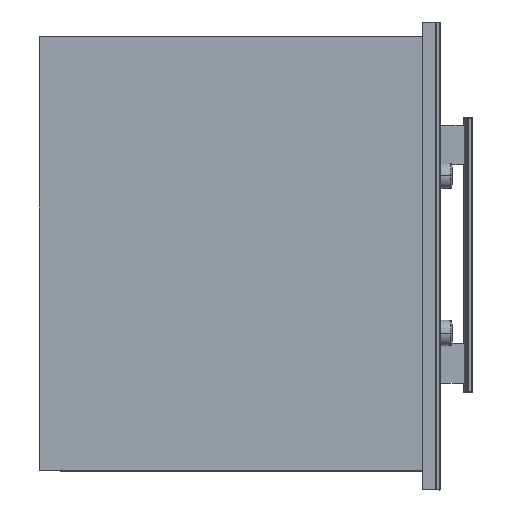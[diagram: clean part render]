
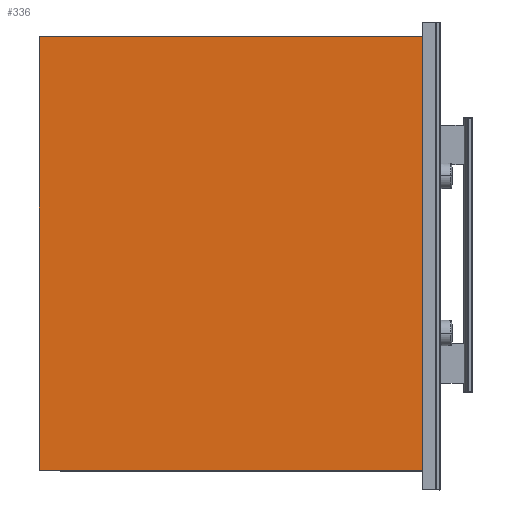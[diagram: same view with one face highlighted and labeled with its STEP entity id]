
A CAD part, top view. The second image highlights one B-rep face of the part: STEP entity #336.
In plain terms, the highlighted free-form (B-spline) face has degree [1, 1] with [2, 2] control points.
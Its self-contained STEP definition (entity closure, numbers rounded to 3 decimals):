
#19=B_SPLINE_CURVE_WITH_KNOTS('',1,(#2324,#2325),.UNSPECIFIED.,.F.,.F.,(2,
2),(0.,1.),.UNSPECIFIED.);
#25=B_SPLINE_CURVE_WITH_KNOTS('',1,(#2336,#2337),.UNSPECIFIED.,.F.,.F.,(2,
2),(0.,1.),.UNSPECIFIED.);
#26=B_SPLINE_CURVE_WITH_KNOTS('',1,(#2338,#2339),.UNSPECIFIED.,.F.,.F.,(2,
2),(0.,1.),.UNSPECIFIED.);
#27=B_SPLINE_CURVE_WITH_KNOTS('',1,(#2340,#2341),.UNSPECIFIED.,.F.,.F.,(2,
2),(0.,1.),.UNSPECIFIED.);
#336=ADVANCED_FACE('',(#469),#1710,.T.);
#469=FACE_OUTER_BOUND('',#606,.T.);
#606=EDGE_LOOP('',(#810,#811,#812,#813));
#810=ORIENTED_EDGE('',*,*,#1314,.T.);
#811=ORIENTED_EDGE('',*,*,#1315,.T.);
#812=ORIENTED_EDGE('',*,*,#1316,.F.);
#813=ORIENTED_EDGE('',*,*,#1308,.F.);
#1308=EDGE_CURVE('',#1563,#1564,#19,.T.);
#1314=EDGE_CURVE('',#1563,#1569,#25,.T.);
#1315=EDGE_CURVE('',#1569,#1570,#26,.T.);
#1316=EDGE_CURVE('',#1564,#1570,#27,.T.);
#1563=VERTEX_POINT('',#2426);
#1564=VERTEX_POINT('',#2427);
#1569=VERTEX_POINT('',#2432);
#1570=VERTEX_POINT('',#2433);
#1710=B_SPLINE_SURFACE_WITH_KNOTS('',1,1,((#2380,#2381),(#2382,#2383)),.UNSPECIFIED.,
.F.,.F.,.F.,(2,2),(2,2),(0.,1.),(0.,1.),.UNSPECIFIED.);
#2324=CARTESIAN_POINT('',(0.331,278.959,432.902));
#2325=CARTESIAN_POINT('',(0.331,-273.541,432.902));
#2336=CARTESIAN_POINT('',(0.331,278.959,432.902));
#2337=CARTESIAN_POINT('',(-488.055,278.959,432.902));
#2338=CARTESIAN_POINT('',(-488.055,278.959,432.902));
#2339=CARTESIAN_POINT('',(-488.055,-273.541,432.902));
#2340=CARTESIAN_POINT('',(0.331,-273.541,432.902));
#2341=CARTESIAN_POINT('',(-488.055,-273.541,432.902));
#2380=CARTESIAN_POINT('',(0.331,278.959,432.902));
#2381=CARTESIAN_POINT('',(0.331,-273.541,432.902));
#2382=CARTESIAN_POINT('',(-488.055,278.959,432.902));
#2383=CARTESIAN_POINT('',(-488.055,-273.541,432.902));
#2426=CARTESIAN_POINT('',(0.331,278.959,432.902));
#2427=CARTESIAN_POINT('',(0.331,-273.541,432.902));
#2432=CARTESIAN_POINT('',(-488.055,278.959,432.902));
#2433=CARTESIAN_POINT('',(-488.055,-273.541,432.902));
